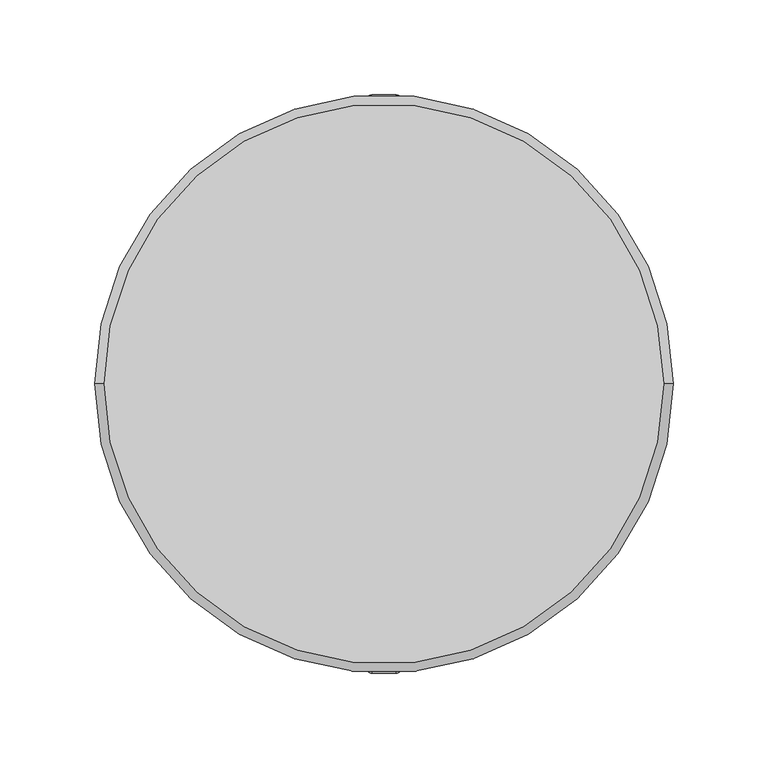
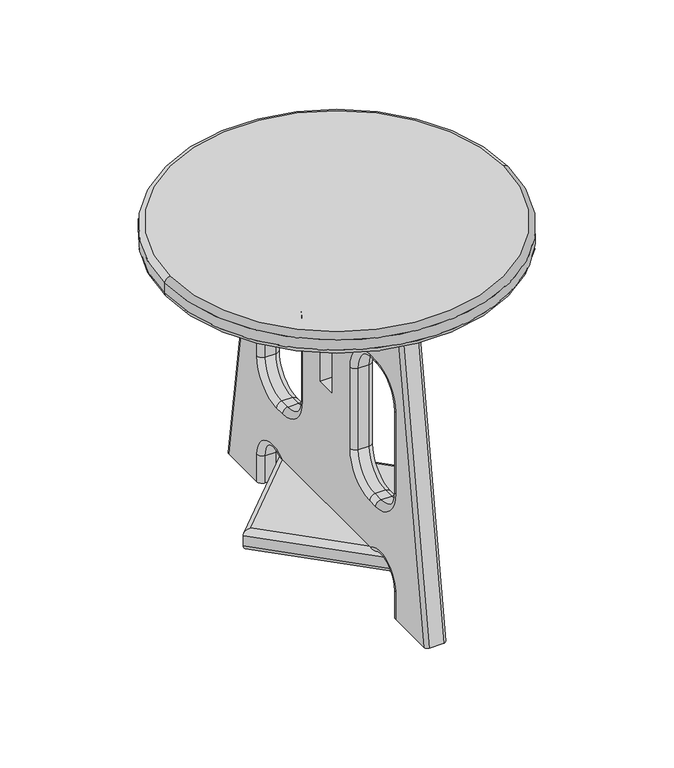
"""IFC4 building model written with IfcOpenShell, lengths in millimetres: furniture geometry, SSL-Childcraft_Outdoor-Stool : 2161352."""

from ifc_helpers import new_model, si_unit, point, frame, origin, origin_with_axes, place, context, project, spatial, polyline, circle_curve, ellipse_curve, trimmed, source, transform, mapped, element, save
from ifc_brep_helpers import plane_surface, cylinder_surface, revolved_surface, extruded_surface, spline_surface, advanced_brep


def furniture_d0157fcb(model_context):
    return source(origin(), model_context, "Body", "AdvancedBrep", [
        advanced_brep(
        [(6.35, 109.5375, 285.75), (9.525, 106.3625, 285.75), (9.525, 149.2274937, 0.0), (6.3524937, 152.4, 0.0), (-6.35, 109.5375, 285.75), (-6.35, 152.4, 0.0), (-9.525, 106.3625, 285.75), (-9.525, 149.225, 0.0), (4.7625, -41.2877, 117.475), (4.7625, -66.675, 92.0877), (9.525, -66.675, 87.3252), (9.525, -36.5252, 117.475), (-4.7625, -41.2877, 117.475), (-4.7625, -66.675, 92.0877), (-9.525, -36.5252, 117.475), (-9.525, -66.675, 87.3252), (9.525, -36.5252, 193.675), (4.7625, -41.2877, 193.675), (-4.7625, -41.2877, 193.675), (-9.525, -36.5252, 193.675), (9.525, -66.675, 223.8248), (4.7625, -66.675, 219.0623), (-4.7625, -66.675, 219.0623), (-9.525, -66.675, 223.8248), (9.525, -76.1873, 223.8248), (4.7625, -76.1873, 219.0623), (-4.7625, -76.1873, 219.0623), (-9.525, -76.1873, 223.8248), (9.525, -106.3498, 193.6623), (4.7625, -101.5873, 193.6623), (-4.7625, -101.5873, 193.6623), (-9.525, -106.3498, 193.6623), (9.525, -106.3498, 117.475), (4.7625, -101.5873, 117.475), (-4.7625, -101.5873, 117.475), (-9.525, -106.3498, 117.475), (9.525, -76.2, 87.3252), (4.7625, -76.2, 92.0877), (-4.7625, -76.2, 92.0877), (-9.525, -76.2, 87.3252), (4.7625, 101.5873, 117.475), (4.7625, 76.2, 92.0877), (9.525, 76.2, 87.3252), (9.525, 106.3498, 117.475), (-4.7625, 101.5873, 117.475), (-4.7625, 76.2, 92.0877), (-9.525, 106.3498, 117.475), (-9.525, 76.2, 87.3252), (9.525, 106.3498, 193.6623), (4.7625, 101.5873, 193.6623), (-4.7625, 101.5873, 193.6623), (-9.525, 106.3498, 193.6623), (9.525, 76.1873, 223.8248), (4.7625, 76.1873, 219.0623), (-4.7625, 76.1873, 219.0623), (-9.525, 76.1873, 223.8248), (9.525, 66.675, 223.8248), (4.7625, 66.675, 219.0623), (-4.7625, 66.675, 219.0623), (-9.525, 66.675, 223.8248), (9.525, 36.5252, 193.675), (4.7625, 41.2877, 193.675), (-4.7625, 41.2877, 193.675), (-9.525, 36.5252, 193.675), (9.525, 36.5252, 117.475), (4.7625, 41.2877, 117.475), (-4.7625, 41.2877, 117.475), (-9.525, 36.5252, 117.475), (9.525, 66.675, 87.3252), (4.7625, 66.675, 92.0877), (-4.7625, 66.675, 92.0877), (-9.525, 66.675, 87.3252), (4.7625, 101.5873, 0.0), (9.525, 106.3498, 0.0), (9.525, 106.3498, 25.4), (4.7625, 101.5873, 25.4), (-4.7625, 101.5873, 0.0), (-4.7625, 101.5873, 25.4), (-9.525, 106.3498, 0.0), (-9.525, 106.3498, 25.4), (-9.525, 68.27012, 44.43984), (-4.7625, 71.12762, 40.62984), (4.7625, 71.12762, 40.62984), (9.525, 68.27012, 44.43984), (9.525, -106.3498, 0.0), (4.7625, -101.5873, 0.0), (4.7625, -101.5873, 25.4), (9.525, -106.3498, 25.4), (-4.7625, -101.5873, 0.0), (-4.7625, -101.5873, 25.4), (-9.525, -106.3498, 0.0), (-9.525, -106.3498, 25.4), (9.525, -68.27012, 44.43984), (4.7625, -71.12762, 40.62984), (-4.7625, -71.12762, 40.62984), (-9.525, -68.27012, 44.43984), (9.525, 101.6, 285.75), (9.525, 82.55, 266.7), (9.525, 9.525, 266.7), (9.525, 9.525, 152.4), (9.525, -9.525, 152.4), (9.525, -9.525, 266.7), (9.525, -82.55, 266.7), (9.525, -101.6, 285.75), (9.525, -106.3625, 285.75), (9.525, -149.225, 0.0), (-9.525, -149.2274937, 0.0), (-9.525, -106.3625, 285.75), (-9.525, -101.6, 285.75), (-9.525, -82.55, 266.7), (-9.525, -9.525, 266.7), (-9.525, -9.525, 152.4), (-9.525, 9.525, 152.4), (-9.525, 9.525, 266.7), (-9.525, 82.55, 266.7), (-9.525, 101.6, 285.75), (-6.35, -109.5375, 285.75), (6.35, -109.5375, 285.75), (6.35, -152.4, 0.0), (-6.3524937, -152.4, 0.0)],
        [
            (0, 1, circle_curve(frame((6.35, 106.3625, 285.75), z_axis=(0.0, 0.0, -1.0), x_axis=(1.0, 0.0, 0.0)), 3.175)),
            (1, 2),
            (2, 3, circle_curve(frame((6.3524937, 149.2274937, 0.0), z_axis=(0.0, 0.0, 1.0), x_axis=(1.0, 0.0, 0.0)), 3.1725063)),
            (3, 0),
            (4, 0),
            (3, 5),
            (5, 4),
            (6, 4, circle_curve(frame((-6.35, 106.3625, 285.75), z_axis=(0.0, 0.0, -1.0), x_axis=(1.0, 0.0, 0.0)), 3.175)),
            (5, 7, circle_curve(frame((-6.35, 149.225, 0.0), z_axis=(0.0, 0.0, 1.0), x_axis=(1.0, 0.0, 0.0)), 3.175)),
            (7, 6),
            (8, 9, circle_curve(frame((4.7625, -66.675, 117.475), z_axis=(-1.0, 0.0, 0.0), x_axis=(0.0, 0.0, -1.0)), 25.3873)),
            (9, 10, circle_curve(frame((4.7625, -66.675, 87.3252), z_axis=(0.0, 1.0, 0.0), x_axis=(0.0, 0.0, 1.0)), 4.7625)),
            (10, 11, circle_curve(frame((9.525, -66.675, 117.475), z_axis=(1.0, 0.0, 0.0), x_axis=(0.0, 0.0, -1.0)), 30.1498)),
            (11, 8, circle_curve(frame((4.7625, -36.5252, 117.475), z_axis=(0.0, 0.0, -1.0), x_axis=(0.0, -1.0, 0.0)), 4.7625)),
            (8, 12),
            (12, 13, circle_curve(frame((-4.7625, -66.675, 117.475), z_axis=(-1.0, 0.0, 0.0), x_axis=(0.0, 0.0, -1.0)), 25.3873)),
            (13, 9),
            (12, 14, circle_curve(frame((-4.7625, -36.5252, 117.475), z_axis=(0.0, 0.0, -1.0), x_axis=(0.0, -1.0, 0.0)), 4.7625)),
            (14, 15, circle_curve(frame((-9.525, -66.675, 117.475), z_axis=(-1.0, 0.0, 0.0), x_axis=(0.0, 0.0, -1.0)), 30.1498)),
            (15, 13, circle_curve(frame((-4.7625, -66.675, 87.3252), z_axis=(0.0, 1.0, 0.0), x_axis=(0.0, 0.0, 1.0)), 4.7625)),
            (11, 16),
            (16, 17, circle_curve(frame((4.7625, -36.5252, 193.675), z_axis=(0.0, 0.0, -1.0), x_axis=(0.0, -1.0, 0.0)), 4.7625)),
            (17, 8),
            (17, 18),
            (18, 12),
            (18, 19, circle_curve(frame((-4.7625, -36.5252, 193.675), z_axis=(0.0, 0.0, -1.0), x_axis=(0.0, -1.0, 0.0)), 4.7625)),
            (19, 14),
            (16, 20, circle_curve(frame((9.525, -66.675, 193.675), z_axis=(1.0, 0.0, 0.0), x_axis=(0.0, 1.0, 0.0)), 30.1498)),
            (20, 21, circle_curve(frame((4.7625, -66.675, 223.8248), z_axis=(0.0, 1.0, 0.0), x_axis=(0.0, 0.0, -1.0)), 4.7625)),
            (21, 17, circle_curve(frame((4.7625, -66.675, 193.675), z_axis=(-1.0, 0.0, 0.0), x_axis=(0.0, 1.0, 0.0)), 25.3873)),
            (21, 22),
            (22, 18, circle_curve(frame((-4.7625, -66.675, 193.675), z_axis=(-1.0, 0.0, 0.0), x_axis=(0.0, 1.0, 0.0)), 25.3873)),
            (22, 23, circle_curve(frame((-4.7625, -66.675, 223.8248), z_axis=(0.0, 1.0, 0.0), x_axis=(0.0, 0.0, -1.0)), 4.7625)),
            (23, 19, circle_curve(frame((-9.525, -66.675, 193.675), z_axis=(-1.0, 0.0, 0.0), x_axis=(0.0, 1.0, 0.0)), 30.1498)),
            (20, 24),
            (24, 25, circle_curve(frame((4.7625, -76.1873, 223.8248), z_axis=(0.0, 1.0, 0.0), x_axis=(0.0, 0.0, -1.0)), 4.7625)),
            (25, 21),
            (25, 26),
            (26, 22),
            (26, 27, circle_curve(frame((-4.7625, -76.1873, 223.8248), z_axis=(0.0, 1.0, 0.0), x_axis=(0.0, 0.0, -1.0)), 4.7625)),
            (27, 23),
            (24, 28, circle_curve(frame((9.525, -76.1873, 193.6623), z_axis=(1.0, 0.0, 0.0), x_axis=(0.0, 0.0, 1.0)), 30.1625)),
            (28, 29, circle_curve(frame((4.7625, -106.3498, 193.6623), z_axis=(0.0, 0.0, 1.0), x_axis=(0.0, 1.0, 0.0)), 4.7625)),
            (29, 25, circle_curve(frame((4.7625, -76.1873, 193.6623), z_axis=(-1.0, 0.0, 0.0), x_axis=(0.0, 0.0, 1.0)), 25.4)),
            (29, 30),
            (30, 26, circle_curve(frame((-4.7625, -76.1873, 193.6623), z_axis=(-1.0, 0.0, 0.0), x_axis=(0.0, 0.0, 1.0)), 25.4)),
            (30, 31, circle_curve(frame((-4.7625, -106.3498, 193.6623), z_axis=(0.0, 0.0, 1.0), x_axis=(0.0, 1.0, 0.0)), 4.7625)),
            (31, 27, circle_curve(frame((-9.525, -76.1873, 193.6623), z_axis=(-1.0, 0.0, 0.0), x_axis=(0.0, 0.0, 1.0)), 30.1625)),
            (28, 32),
            (32, 33, circle_curve(frame((4.7625, -106.3498, 117.475), z_axis=(0.0, 0.0, 1.0), x_axis=(0.0, 1.0, 0.0)), 4.7625)),
            (33, 29),
            (33, 34),
            (34, 30),
            (34, 35, circle_curve(frame((-4.7625, -106.3498, 117.475), z_axis=(0.0, 0.0, 1.0), x_axis=(0.0, 1.0, 0.0)), 4.7625)),
            (35, 31),
            (32, 36, circle_curve(frame((9.525, -76.2, 117.475), z_axis=(1.0, 0.0, 0.0), x_axis=(0.0, -1.0, 0.0)), 30.1498)),
            (36, 37, circle_curve(frame((4.7625, -76.2, 87.3252), z_axis=(0.0, -1.0, 0.0), x_axis=(0.0, 0.0, 1.0)), 4.7625)),
            (37, 33, circle_curve(frame((4.7625, -76.2, 117.475), z_axis=(-1.0, 0.0, 0.0), x_axis=(0.0, -1.0, 0.0)), 25.3873)),
            (37, 38),
            (38, 34, circle_curve(frame((-4.7625, -76.2, 117.475), z_axis=(-1.0, 0.0, 0.0), x_axis=(0.0, -1.0, 0.0)), 25.3873)),
            (38, 39, circle_curve(frame((-4.7625, -76.2, 87.3252), z_axis=(0.0, -1.0, 0.0), x_axis=(0.0, 0.0, 1.0)), 4.7625)),
            (39, 35, circle_curve(frame((-9.525, -76.2, 117.475), z_axis=(-1.0, 0.0, 0.0), x_axis=(0.0, -1.0, 0.0)), 30.1498)),
            (9, 37),
            (36, 10),
            (13, 38),
            (15, 39),
            (40, 41, circle_curve(frame((4.7625, 76.2, 117.475), z_axis=(-1.0, 0.0, 0.0), x_axis=(0.0, 0.0, -1.0)), 25.3873)),
            (41, 42, circle_curve(frame((4.7625, 76.2, 87.3252), z_axis=(0.0, 1.0, 0.0), x_axis=(0.0, 0.0, 1.0)), 4.7625)),
            (42, 43, circle_curve(frame((9.525, 76.2, 117.475), z_axis=(1.0, 0.0, 0.0), x_axis=(0.0, 0.0, -1.0)), 30.1498)),
            (43, 40, circle_curve(frame((4.7625, 106.3498, 117.475), z_axis=(0.0, 0.0, -1.0), x_axis=(0.0, -1.0, 0.0)), 4.7625)),
            (40, 44),
            (44, 45, circle_curve(frame((-4.7625, 76.2, 117.475), z_axis=(-1.0, 0.0, 0.0), x_axis=(0.0, 0.0, -1.0)), 25.3873)),
            (45, 41),
            (44, 46, circle_curve(frame((-4.7625, 106.3498, 117.475), z_axis=(0.0, 0.0, -1.0), x_axis=(0.0, -1.0, 0.0)), 4.7625)),
            (46, 47, circle_curve(frame((-9.525, 76.2, 117.475), z_axis=(-1.0, 0.0, 0.0), x_axis=(0.0, 0.0, -1.0)), 30.1498)),
            (47, 45, circle_curve(frame((-4.7625, 76.2, 87.3252), z_axis=(0.0, 1.0, 0.0), x_axis=(0.0, 0.0, 1.0)), 4.7625)),
            (43, 48),
            (48, 49, circle_curve(frame((4.7625, 106.3498, 193.6623), z_axis=(0.0, 0.0, -1.0), x_axis=(0.0, -1.0, 0.0)), 4.7625)),
            (49, 40),
            (49, 50),
            (50, 44),
            (50, 51, circle_curve(frame((-4.7625, 106.3498, 193.6623), z_axis=(0.0, 0.0, -1.0), x_axis=(0.0, -1.0, 0.0)), 4.7625)),
            (51, 46),
            (48, 52, circle_curve(frame((9.525, 76.1873, 193.6623), z_axis=(1.0, 0.0, 0.0), x_axis=(0.0, 1.0, 0.0)), 30.1625)),
            (52, 53, circle_curve(frame((4.7625, 76.1873, 223.8248), z_axis=(0.0, 1.0, 0.0), x_axis=(0.0, 0.0, -1.0)), 4.7625)),
            (53, 49, circle_curve(frame((4.7625, 76.1873, 193.6623), z_axis=(-1.0, 0.0, 0.0), x_axis=(0.0, 1.0, 0.0)), 25.4)),
            (53, 54),
            (54, 50, circle_curve(frame((-4.7625, 76.1873, 193.6623), z_axis=(-1.0, 0.0, 0.0), x_axis=(0.0, 1.0, 0.0)), 25.4)),
            (54, 55, circle_curve(frame((-4.7625, 76.1873, 223.8248), z_axis=(0.0, 1.0, 0.0), x_axis=(0.0, 0.0, -1.0)), 4.7625)),
            (55, 51, circle_curve(frame((-9.525, 76.1873, 193.6623), z_axis=(-1.0, 0.0, 0.0), x_axis=(0.0, 1.0, 0.0)), 30.1625)),
            (52, 56),
            (56, 57, circle_curve(frame((4.7625, 66.675, 223.8248), z_axis=(0.0, 1.0, 0.0), x_axis=(0.0, 0.0, -1.0)), 4.7625)),
            (57, 53),
            (57, 58),
            (58, 54),
            (58, 59, circle_curve(frame((-4.7625, 66.675, 223.8248), z_axis=(0.0, 1.0, 0.0), x_axis=(0.0, 0.0, -1.0)), 4.7625)),
            (59, 55),
            (56, 60, circle_curve(frame((9.525, 66.675, 193.675), z_axis=(1.0, 0.0, 0.0), x_axis=(0.0, 0.0, 1.0)), 30.1498)),
            (60, 61, circle_curve(frame((4.7625, 36.5252, 193.675), z_axis=(0.0, 0.0, 1.0), x_axis=(0.0, 1.0, 0.0)), 4.7625)),
            (61, 57, circle_curve(frame((4.7625, 66.675, 193.675), z_axis=(-1.0, 0.0, 0.0), x_axis=(0.0, 0.0, 1.0)), 25.3873)),
            (61, 62),
            (62, 58, circle_curve(frame((-4.7625, 66.675, 193.675), z_axis=(-1.0, 0.0, 0.0), x_axis=(0.0, 0.0, 1.0)), 25.3873)),
            (62, 63, circle_curve(frame((-4.7625, 36.5252, 193.675), z_axis=(0.0, 0.0, 1.0), x_axis=(0.0, 1.0, 0.0)), 4.7625)),
            (63, 59, circle_curve(frame((-9.525, 66.675, 193.675), z_axis=(-1.0, 0.0, 0.0), x_axis=(0.0, 0.0, 1.0)), 30.1498)),
            (60, 64),
            (64, 65, circle_curve(frame((4.7625, 36.5252, 117.475), z_axis=(0.0, 0.0, 1.0), x_axis=(0.0, 1.0, 0.0)), 4.7625)),
            (65, 61),
            (65, 66),
            (66, 62),
            (66, 67, circle_curve(frame((-4.7625, 36.5252, 117.475), z_axis=(0.0, 0.0, 1.0), x_axis=(0.0, 1.0, 0.0)), 4.7625)),
            (67, 63),
            (64, 68, circle_curve(frame((9.525, 66.675, 117.475), z_axis=(1.0, 0.0, 0.0), x_axis=(0.0, -1.0, 0.0)), 30.1498)),
            (68, 69, circle_curve(frame((4.7625, 66.675, 87.3252), z_axis=(0.0, -1.0, 0.0), x_axis=(0.0, 0.0, 1.0)), 4.7625)),
            (69, 65, circle_curve(frame((4.7625, 66.675, 117.475), z_axis=(-1.0, 0.0, 0.0), x_axis=(0.0, -1.0, 0.0)), 25.3873)),
            (69, 70),
            (70, 66, circle_curve(frame((-4.7625, 66.675, 117.475), z_axis=(-1.0, 0.0, 0.0), x_axis=(0.0, -1.0, 0.0)), 25.3873)),
            (70, 71, circle_curve(frame((-4.7625, 66.675, 87.3252), z_axis=(0.0, -1.0, 0.0), x_axis=(0.0, 0.0, 1.0)), 4.7625)),
            (71, 67, circle_curve(frame((-9.525, 66.675, 117.475), z_axis=(-1.0, 0.0, 0.0), x_axis=(0.0, -1.0, 0.0)), 30.1498)),
            (41, 69),
            (68, 42),
            (45, 70),
            (47, 71),
            (72, 73, circle_curve(frame((4.7625, 106.3498, 0.0), z_axis=(0.0, 0.0, 1.0), x_axis=(0.0, -1.0, 0.0)), 4.7625)),
            (73, 74),
            (74, 75, circle_curve(frame((4.7625, 106.3498, 25.4), z_axis=(0.0, 0.0, -1.0), x_axis=(0.0, -1.0, 0.0)), 4.7625)),
            (75, 72),
            (76, 72),
            (75, 77),
            (77, 76),
            (78, 76, circle_curve(frame((-4.7625, 106.3498, 0.0), z_axis=(0.0, 0.0, 1.0), x_axis=(0.0, -1.0, 0.0)), 4.7625)),
            (77, 79, circle_curve(frame((-4.7625, 106.3498, 25.4), z_axis=(0.0, 0.0, -1.0), x_axis=(0.0, -1.0, 0.0)), 4.7625)),
            (79, 78),
            (80, 81, circle_curve(frame((-4.7625, 68.27012, 44.43984), z_axis=(0.0, -0.8000000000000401, -0.5999999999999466), x_axis=(0.0, 0.5999999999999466, -0.8000000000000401)), 4.7625)),
            (81, 82),
            (82, 83, circle_curve(frame((4.7625, 68.27012, 44.43984), z_axis=(0.0, -0.8000000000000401, -0.5999999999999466), x_axis=(0.0, 0.5999999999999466, -0.8000000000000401)), 4.7625)),
            (83, 80),
            (74, 83, circle_curve(frame((9.525, 82.55, 25.4), z_axis=(1.0, 0.0, 0.0), x_axis=(0.0, 1.0, 0.0)), 23.7998)),
            (82, 75, circle_curve(frame((4.7625, 82.55, 25.4), z_axis=(-1.0, 0.0, 0.0), x_axis=(0.0, 1.0, 0.0)), 19.0373)),
            (81, 77, circle_curve(frame((-4.7625, 82.55, 25.4), z_axis=(-1.0, 0.0, 0.0), x_axis=(0.0, 1.0, 0.0)), 19.0373)),
            (80, 79, circle_curve(frame((-9.525, 82.55, 25.4), z_axis=(-1.0, 0.0, 0.0), x_axis=(0.0, 1.0, 0.0)), 23.7998)),
            (84, 85, circle_curve(frame((4.7625, -106.3498, 0.0), z_axis=(0.0, 0.0, 1.0), x_axis=(0.0, -1.0, 0.0)), 4.7625)),
            (85, 86),
            (86, 87, circle_curve(frame((4.7625, -106.3498, 25.4), z_axis=(0.0, 0.0, -1.0), x_axis=(0.0, -1.0, 0.0)), 4.7625)),
            (87, 84),
            (85, 88),
            (88, 89),
            (89, 86),
            (88, 90, circle_curve(frame((-4.7625, -106.3498, 0.0), z_axis=(0.0, 0.0, 1.0), x_axis=(0.0, -1.0, 0.0)), 4.7625)),
            (90, 91),
            (91, 89, circle_curve(frame((-4.7625, -106.3498, 25.4), z_axis=(0.0, 0.0, -1.0), x_axis=(0.0, -1.0, 0.0)), 4.7625)),
            (92, 93, circle_curve(frame((4.7625, -68.27012, 44.43984), z_axis=(0.0, 0.8000000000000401, -0.5999999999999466), x_axis=(0.0, 0.5999999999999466, 0.8000000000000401)), 4.7625)),
            (93, 94),
            (94, 95, circle_curve(frame((-4.7625, -68.27012, 44.43984), z_axis=(0.0, 0.8000000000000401, -0.5999999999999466), x_axis=(0.0, 0.5999999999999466, 0.8000000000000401)), 4.7625)),
            (95, 92),
            (86, 93, circle_curve(frame((4.7625, -82.55, 25.4), z_axis=(-1.0, 0.0, 0.0), x_axis=(0.0, -1.0, 0.0)), 19.0373)),
            (92, 87, circle_curve(frame((9.525, -82.55, 25.4), z_axis=(1.0, 0.0, 0.0), x_axis=(0.0, -1.0, 0.0)), 23.7998)),
            (89, 94, circle_curve(frame((-4.7625, -82.55, 25.4), z_axis=(-1.0, 0.0, 0.0), x_axis=(0.0, -1.0, 0.0)), 19.0373)),
            (91, 95, circle_curve(frame((-9.525, -82.55, 25.4), z_axis=(-1.0, 0.0, 0.0), x_axis=(0.0, -1.0, 0.0)), 23.7998)),
            (96, 97, circle_curve(frame((9.525, 82.55, 285.75), z_axis=(-1.0, 0.0, 0.0), x_axis=(0.0, 1.0, 0.0)), 19.05)),
            (97, 98),
            (98, 99),
            (99, 100),
            (100, 101),
            (101, 102),
            (102, 103, circle_curve(frame((9.525, -82.55, 285.75), z_axis=(-1.0, 0.0, 0.0), x_axis=(0.0, 1.0, 0.0)), 19.05)),
            (103, 104),
            (104, 105),
            (105, 84),
            (92, 83),
            (73, 2),
            (1, 96),
            (80, 95),
            (90, 106),
            (106, 107),
            (107, 108),
            (108, 109, circle_curve(frame((-9.525, -82.55, 285.75), z_axis=(1.0, 0.0, 0.0), x_axis=(0.0, 1.0, 0.0)), 19.05)),
            (109, 110),
            (110, 111),
            (111, 112),
            (112, 113),
            (113, 114),
            (114, 115, circle_curve(frame((-9.525, 82.55, 285.75), z_axis=(1.0, 0.0, 0.0), x_axis=(0.0, 1.0, 0.0)), 19.05)),
            (115, 6),
            (7, 78),
            (115, 96),
            (114, 97),
            (113, 98),
            (112, 99),
            (111, 100),
            (110, 101),
            (109, 102),
            (108, 103),
            (107, 116, circle_curve(frame((-6.35, -106.3625, 285.75), z_axis=(0.0, 0.0, 1.0), x_axis=(-1.0, 0.0, 0.0)), 3.175)),
            (116, 117),
            (117, 104, circle_curve(frame((6.35, -106.3625, 285.75), z_axis=(0.0, 0.0, 1.0), x_axis=(-1.0, 0.0, 0.0)), 3.175)),
            (105, 118, circle_curve(frame((6.35, -149.225, 0.0), z_axis=(0.0, 0.0, -1.0), x_axis=(-1.0, 0.0, 0.0)), 3.175)),
            (118, 119),
            (119, 106, circle_curve(frame((-6.3524937, -149.2274937, 0.0), z_axis=(0.0, 0.0, -1.0), x_axis=(-1.0, 0.0, 0.0)), 3.1725063)),
            (119, 116),
            (118, 117),
        ],
        [
            spline_surface(2, 1, [[(9.525, 149.2274937, 0.0), (9.525, 106.3625, 285.75)], [(9.525000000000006, 152.4, 0.0), (9.525000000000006, 109.5375, 285.75)], [(6.3524937, 152.4, 0.0), (6.35, 109.5375, 285.75)]], [3, 3], [2, 2], [0.0, 1.0], [0.0, 1.0], weights=[[1.0, 1.0], [0.7071067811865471, 0.7071067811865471], [1.0, 1.0]]),
            plane_surface(frame((0.0012468, 152.4, 0.0), z_axis=(0.0, 0.988936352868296, 0.14834045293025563), x_axis=(-1.0, 0.0, 0.0))),
            extruded_surface(trimmed(circle_curve(frame((-6.35, 149.225, 0.0), z_axis=(0.0, 0.0, 1.0), x_axis=(1.0, 0.0, 0.0)), 3.175), [point((-6.35, 152.4, 0.0))], [point((-9.525, 149.225, 0.0))], True, "CARTESIAN"), (0.0, -42.8625, 285.75), 288.94680549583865),
            revolved_surface(trimmed(ellipse_curve(frame((4.7625, -66.675, 87.3252), z_axis=(0.0, -1.0, 0.0), x_axis=(0.0, 0.0, 1.0)), 4.7625, 4.7625), [point((9.525, -66.675, 87.3252))], [point((4.7625, -66.675, 92.0877))], True, "CARTESIAN"), (0.0, -66.675, 117.475), (1.0, 0.0, 0.0)),
            revolved_surface(polyline([(4.7625, -66.675, 92.0877), (-4.7625, -66.675, 92.0877)]), (0.0, -66.675, 117.475), (1.0, 0.0, 0.0)),
            revolved_surface(trimmed(ellipse_curve(frame((-4.7625, -66.675, 87.3252), z_axis=(0.0, -1.0, 0.0), x_axis=(0.0, 0.0, 1.0)), 4.7625, 4.7625), [point((-4.7625, -66.675, 92.0877))], [point((-9.525, -66.675, 87.3252))], True, "CARTESIAN"), (0.0, -66.675, 117.475), (1.0, 0.0, 0.0)),
            cylinder_surface(frame((4.7625, -36.5252, 117.475), z_axis=(0.0, 0.0, -1.0), x_axis=(0.0, -1.0, 0.0)), 4.7625),
            plane_surface(frame((4.7625, -41.2877, 117.475), z_axis=(0.0, -1.0, 0.0), x_axis=(0.0, 0.0, 1.0))),
            cylinder_surface(frame((-4.7625, -36.5252, 117.475), z_axis=(0.0, 0.0, -1.0), x_axis=(0.0, -1.0, 0.0)), 4.7625),
            revolved_surface(trimmed(ellipse_curve(frame((4.7625, -36.5252, 193.675), z_axis=(0.0, 0.0, -1.0), x_axis=(0.0, -1.0, 0.0)), 4.7625, 4.7625), [point((9.525, -36.5252, 193.675))], [point((4.7625, -41.2877, 193.675))], True, "CARTESIAN"), (0.0, -66.675, 193.675), (1.0, 0.0, 0.0)),
            revolved_surface(polyline([(4.7625, -41.2877, 193.675), (-4.7625, -41.2877, 193.675)]), (0.0, -66.675, 193.675), (1.0, 0.0, 0.0)),
            revolved_surface(trimmed(ellipse_curve(frame((-4.7625, -36.5252, 193.675), z_axis=(0.0, 0.0, -1.0), x_axis=(0.0, -1.0, 0.0)), 4.7625, 4.7625), [point((-4.7625, -41.2877, 193.675))], [point((-9.525, -36.5252, 193.675))], True, "CARTESIAN"), (0.0, -66.675, 193.675), (1.0, 0.0, 0.0)),
            cylinder_surface(frame((4.7625, -66.675, 223.8248), z_axis=(0.0, 1.0, 0.0), x_axis=(0.0, 0.0, -1.0)), 4.7625),
            plane_surface(frame((4.7625, -66.675, 219.0623), z_axis=(0.0, 0.0, -1.0), x_axis=(0.0, -1.0, 0.0))),
            cylinder_surface(frame((-4.7625, -66.675, 223.8248), z_axis=(0.0, 1.0, 0.0), x_axis=(0.0, 0.0, -1.0)), 4.7625),
            revolved_surface(trimmed(ellipse_curve(frame((4.7625, -76.1873, 223.8248), z_axis=(0.0, 1.0, 0.0), x_axis=(0.0, 0.0, -1.0)), 4.7625, 4.7625), [point((9.525, -76.1873, 223.8248))], [point((4.7625, -76.1873, 219.0623))], True, "CARTESIAN"), (0.0, -76.1873, 193.6623), (1.0, 0.0, 0.0)),
            revolved_surface(polyline([(4.7625, -76.1873, 219.0623), (-4.7625, -76.1873, 219.0623)]), (0.0, -76.1873, 193.6623), (1.0, 0.0, 0.0)),
            revolved_surface(trimmed(ellipse_curve(frame((-4.7625, -76.1873, 223.8248), z_axis=(0.0, 1.0, 0.0), x_axis=(0.0, 0.0, -1.0)), 4.7625, 4.7625), [point((-4.7625, -76.1873, 219.0623))], [point((-9.525, -76.1873, 223.8248))], True, "CARTESIAN"), (0.0, -76.1873, 193.6623), (1.0, 0.0, 0.0)),
            cylinder_surface(frame((4.7625, -106.3498, 193.6623), z_axis=(0.0, 0.0, 1.0), x_axis=(0.0, 1.0, 0.0)), 4.7625),
            plane_surface(frame((4.7625, -101.5873, 193.6623), z_axis=(0.0, 1.0, 0.0), x_axis=(0.0, 0.0, -1.0))),
            cylinder_surface(frame((-4.7625, -106.3498, 193.6623), z_axis=(0.0, 0.0, 1.0), x_axis=(0.0, 1.0, 0.0)), 4.7625),
            revolved_surface(trimmed(ellipse_curve(frame((4.7625, -106.3498, 117.475), z_axis=(0.0, 0.0, 1.0), x_axis=(0.0, 1.0, 0.0)), 4.7625, 4.7625), [point((9.525, -106.3498, 117.475))], [point((4.7625, -101.5873, 117.475))], True, "CARTESIAN"), (0.0, -76.2, 117.475), (1.0, 0.0, 0.0)),
            revolved_surface(polyline([(4.7625, -101.5873, 117.475), (-4.7625, -101.5873, 117.475)]), (0.0, -76.2, 117.475), (1.0, 0.0, 0.0)),
            revolved_surface(trimmed(ellipse_curve(frame((-4.7625, -106.3498, 117.475), z_axis=(0.0, 0.0, 1.0), x_axis=(0.0, 1.0, 0.0)), 4.7625, 4.7625), [point((-4.7625, -101.5873, 117.475))], [point((-9.525, -106.3498, 117.475))], True, "CARTESIAN"), (0.0, -76.2, 117.475), (1.0, 0.0, 0.0)),
            cylinder_surface(frame((4.7625, -76.2, 87.3252), z_axis=(0.0, -1.0, 0.0), x_axis=(0.0, 0.0, 1.0)), 4.7625),
            plane_surface(frame((4.7625, -76.2, 92.0877), z_axis=(0.0, 0.0, 1.0), x_axis=(0.0, 1.0, 0.0))),
            cylinder_surface(frame((-4.7625, -76.2, 87.3252), z_axis=(0.0, -1.0, 0.0), x_axis=(0.0, 0.0, 1.0)), 4.7625),
            revolved_surface(trimmed(ellipse_curve(frame((4.7625, 76.2, 87.3252), z_axis=(0.0, -1.0, 0.0), x_axis=(0.0, 0.0, 1.0)), 4.7625, 4.7625), [point((9.525, 76.2, 87.3252))], [point((4.7625, 76.2, 92.0877))], True, "CARTESIAN"), (0.0, 76.2, 117.475), (1.0, 0.0, 0.0)),
            revolved_surface(polyline([(4.7625, 76.2, 92.0877), (-4.7625, 76.2, 92.0877)]), (0.0, 76.2, 117.475), (1.0, 0.0, 0.0)),
            revolved_surface(trimmed(ellipse_curve(frame((-4.7625, 76.2, 87.3252), z_axis=(0.0, -1.0, 0.0), x_axis=(0.0, 0.0, 1.0)), 4.7625, 4.7625), [point((-4.7625, 76.2, 92.0877))], [point((-9.525, 76.2, 87.3252))], True, "CARTESIAN"), (0.0, 76.2, 117.475), (1.0, 0.0, 0.0)),
            cylinder_surface(frame((4.7625, 106.3498, 117.475), z_axis=(0.0, 0.0, -1.0), x_axis=(0.0, -1.0, 0.0)), 4.7625),
            plane_surface(frame((4.7625, 101.5873, 117.475), z_axis=(0.0, -1.0, 0.0), x_axis=(0.0, 0.0, 1.0))),
            cylinder_surface(frame((-4.7625, 106.3498, 117.475), z_axis=(0.0, 0.0, -1.0), x_axis=(0.0, -1.0, 0.0)), 4.7625),
            revolved_surface(trimmed(ellipse_curve(frame((4.7625, 106.3498, 193.6623), z_axis=(0.0, 0.0, -1.0), x_axis=(0.0, -1.0, 0.0)), 4.7625, 4.7625), [point((9.525, 106.3498, 193.6623))], [point((4.7625, 101.5873, 193.6623))], True, "CARTESIAN"), (0.0, 76.1873, 193.6623), (1.0, 0.0, 0.0)),
            revolved_surface(polyline([(4.7625, 101.5873, 193.6623), (-4.7625, 101.5873, 193.6623)]), (0.0, 76.1873, 193.6623), (1.0, 0.0, 0.0)),
            revolved_surface(trimmed(ellipse_curve(frame((-4.7625, 106.3498, 193.6623), z_axis=(0.0, 0.0, -1.0), x_axis=(0.0, -1.0, 0.0)), 4.7625, 4.7625), [point((-4.7625, 101.5873, 193.6623))], [point((-9.525, 106.3498, 193.6623))], True, "CARTESIAN"), (0.0, 76.1873, 193.6623), (1.0, 0.0, 0.0)),
            cylinder_surface(frame((4.7625, 76.1873, 223.8248), z_axis=(0.0, 1.0, 0.0), x_axis=(0.0, 0.0, -1.0)), 4.7625),
            plane_surface(frame((4.7625, 76.1873, 219.0623), z_axis=(0.0, 0.0, -1.0), x_axis=(0.0, -1.0, 0.0))),
            cylinder_surface(frame((-4.7625, 76.1873, 223.8248), z_axis=(0.0, 1.0, 0.0), x_axis=(0.0, 0.0, -1.0)), 4.7625),
            revolved_surface(trimmed(ellipse_curve(frame((4.7625, 66.675, 223.8248), z_axis=(0.0, 1.0, 0.0), x_axis=(0.0, 0.0, -1.0)), 4.7625, 4.7625), [point((9.525, 66.675, 223.8248))], [point((4.7625, 66.675, 219.0623))], True, "CARTESIAN"), (0.0, 66.675, 193.675), (1.0, 0.0, 0.0)),
            revolved_surface(polyline([(4.7625, 66.675, 219.06230000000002), (-4.7625, 66.675, 219.06230000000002)]), (0.0, 66.675, 193.675), (1.0, 0.0, 0.0)),
            revolved_surface(trimmed(ellipse_curve(frame((-4.7625, 66.675, 223.8248), z_axis=(0.0, 1.0, 0.0), x_axis=(0.0, 0.0, -1.0)), 4.7625, 4.7625), [point((-4.7625, 66.675, 219.0623))], [point((-9.525, 66.675, 223.8248))], True, "CARTESIAN"), (0.0, 66.675, 193.675), (1.0, 0.0, 0.0)),
            cylinder_surface(frame((4.7625, 36.5252, 193.675), z_axis=(0.0, 0.0, 1.0), x_axis=(0.0, 1.0, 0.0)), 4.7625),
            plane_surface(frame((4.7625, 41.2877, 193.675), z_axis=(0.0, 1.0, 0.0), x_axis=(0.0, 0.0, -1.0))),
            cylinder_surface(frame((-4.7625, 36.5252, 193.675), z_axis=(0.0, 0.0, 1.0), x_axis=(0.0, 1.0, 0.0)), 4.7625),
            revolved_surface(trimmed(ellipse_curve(frame((4.7625, 36.5252, 117.475), z_axis=(0.0, 0.0, 1.0), x_axis=(0.0, 1.0, 0.0)), 4.7625, 4.7625), [point((9.525, 36.5252, 117.475))], [point((4.7625, 41.2877, 117.475))], True, "CARTESIAN"), (0.0, 66.675, 117.475), (1.0, 0.0, 0.0)),
            revolved_surface(polyline([(4.7625, 41.2877, 117.475), (-4.7625, 41.2877, 117.475)]), (0.0, 66.675, 117.475), (1.0, 0.0, 0.0)),
            revolved_surface(trimmed(ellipse_curve(frame((-4.7625, 36.5252, 117.475), z_axis=(0.0, 0.0, 1.0), x_axis=(0.0, 1.0, 0.0)), 4.7625, 4.7625), [point((-4.7625, 41.2877, 117.475))], [point((-9.525, 36.5252, 117.475))], True, "CARTESIAN"), (0.0, 66.675, 117.475), (1.0, 0.0, 0.0)),
            cylinder_surface(frame((4.7625, 66.675, 87.3252), z_axis=(0.0, -1.0, 0.0), x_axis=(0.0, 0.0, 1.0)), 4.7625),
            plane_surface(frame((4.7625, 66.675, 92.0877), z_axis=(0.0, 0.0, 1.0), x_axis=(0.0, 1.0, 0.0))),
            cylinder_surface(frame((-4.7625, 66.675, 87.3252), z_axis=(0.0, -1.0, 0.0), x_axis=(0.0, 0.0, 1.0)), 4.7625),
            cylinder_surface(frame((4.7625, 106.3498, 0.0), z_axis=(0.0, 0.0, -1.0), x_axis=(0.0, -1.0, 0.0)), 4.7625),
            plane_surface(frame((4.7625, 101.5873, 0.0), z_axis=(0.0, -1.0, 0.0), x_axis=(0.0, 0.0, 1.0))),
            cylinder_surface(frame((-4.7625, 106.3498, 0.0), z_axis=(0.0, 0.0, -1.0), x_axis=(0.0, -1.0, 0.0)), 4.7625),
            plane_surface(frame((0.0, 68.2625, 44.45), z_axis=(0.0, -0.8000000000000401, -0.5999999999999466), x_axis=(1.0, 0.0, 0.0))),
            revolved_surface(trimmed(ellipse_curve(frame((4.7625, 106.3498, 25.4), z_axis=(0.0, 0.0, -1.0), x_axis=(0.0, -1.0, 0.0)), 4.7625, 4.7625), [point((9.525, 106.3498, 25.4))], [point((4.7625, 101.5873, 25.4))], True, "CARTESIAN"), (0.0, 82.55, 25.4), (1.0, 0.0, 0.0)),
            revolved_surface(polyline([(4.7625, 101.5873, 25.4), (-4.7625, 101.5873, 25.4)]), (0.0, 82.55, 25.4), (1.0, 0.0, 0.0)),
            revolved_surface(trimmed(ellipse_curve(frame((-4.7625, 106.3498, 25.4), z_axis=(0.0, 0.0, -1.0), x_axis=(0.0, -1.0, 0.0)), 4.7625, 4.7625), [point((-4.7625, 101.5873, 25.4))], [point((-9.525, 106.3498, 25.4))], True, "CARTESIAN"), (0.0, 82.55, 25.4), (1.0, 0.0, 0.0)),
            cylinder_surface(frame((4.7625, -106.3498, 0.0), z_axis=(0.0, 0.0, -1.0), x_axis=(0.0, -1.0, 0.0)), 4.7625),
            plane_surface(frame((-4.7625, -101.5873, 0.0), z_axis=(0.0, 1.0, 0.0), x_axis=(0.0, 0.0, 1.0))),
            cylinder_surface(frame((-4.7625, -106.3498, 0.0), z_axis=(0.0, 0.0, -1.0), x_axis=(0.0, -1.0, 0.0)), 4.7625),
            plane_surface(frame((0.0, -68.2625, 44.45), z_axis=(0.0, 0.8000000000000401, -0.5999999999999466), x_axis=(1.0, 0.0, 0.0))),
            revolved_surface(trimmed(ellipse_curve(frame((4.7625, -106.3498, 25.4), z_axis=(0.0, 0.0, -1.0), x_axis=(0.0, -1.0, 0.0)), 4.7625, 4.7625), [point((4.7625, -101.5873, 25.4))], [point((9.525, -106.3498, 25.4))], True, "CARTESIAN"), (0.0, -82.55, 25.4), (-1.0, 0.0, 0.0)),
            revolved_surface(polyline([(-4.7625, -101.5873, 25.4), (4.7625, -101.5873, 25.4)]), (0.0, -82.55, 25.4), (-1.0, 0.0, 0.0)),
            revolved_surface(trimmed(ellipse_curve(frame((-4.7625, -106.3498, 25.4), z_axis=(0.0, 0.0, -1.0), x_axis=(0.0, -1.0, 0.0)), 4.7625, 4.7625), [point((-9.525, -106.3498, 25.4))], [point((-4.7625, -101.5873, 25.4))], True, "CARTESIAN"), (0.0, -82.55, 25.4), (-1.0, 0.0, 0.0)),
            plane_surface(frame((9.525, 103.98125, 285.75), z_axis=(1.0, 0.0, 0.0), x_axis=(0.0, -0.14834045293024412, 0.9889363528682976))),
            plane_surface(frame((-9.525, 103.98125, 285.75), z_axis=(-1.0, 0.0, 0.0), x_axis=(0.0, 0.14834045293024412, -0.9889363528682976))),
            plane_surface(frame((9.525, 103.98125, 285.75), z_axis=(0.0, -1.3642420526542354e-12, 1.0), x_axis=(-1.0, 0.0, 0.0))),
            revolved_surface(polyline([(-9.525, 101.6, 285.75), (9.525, 101.6, 285.75)]), (-9.525, 82.55, 285.75), (-1.0, 0.0, 0.0)),
            plane_surface(frame((9.525, 82.55, 266.7), z_axis=(0.0, 0.0, 1.0), x_axis=(-1.0, 0.0, 0.0))),
            plane_surface(frame((9.525, 9.525, 266.7), z_axis=(0.0, -1.0, 0.0), x_axis=(-1.0, 0.0, 0.0))),
            plane_surface(frame((9.525, 9.525, 152.4), z_axis=(0.0, 0.0, 1.0), x_axis=(-1.0, 0.0, 0.0))),
            plane_surface(frame((9.525, -9.525, 152.4), z_axis=(0.0, 1.0, 0.0), x_axis=(-1.0, 0.0, 0.0))),
            plane_surface(frame((9.525, -9.525, 266.7), z_axis=(0.0, 0.0, 1.0), x_axis=(-1.0, 0.0, 0.0))),
            revolved_surface(polyline([(-9.525, -63.5, 285.75), (9.525, -63.5, 285.75)]), (-9.525, -82.55, 285.75), (-1.0, 0.0, 0.0)),
            plane_surface(frame((9.525, -101.6, 285.75), z_axis=(0.0, 0.0, 1.0), x_axis=(-1.0, 0.0, 0.0))),
            plane_surface(frame((9.525, -146.84375, 0.0), z_axis=(0.0, 0.0, -1.0), x_axis=(-1.0, 0.0, 0.0))),
            plane_surface(frame((9.525, -68.2625, 44.45), z_axis=(0.0, 0.0, -1.0), x_axis=(-1.0, 0.0, 0.0))),
            plane_surface(frame((9.525, 106.3625, 0.0), z_axis=(0.0, 0.0, -1.0), x_axis=(-1.0, 0.0, 0.0))),
            spline_surface(2, 1, [[(-9.525, -149.2274937, 0.0), (-9.525, -106.3625, 285.75)], [(-9.525000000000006, -152.4, 0.0), (-9.525000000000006, -109.5375, 285.75)], [(-6.3524937, -152.4, 0.0), (-6.35, -109.5375, 285.75)]], [3, 3], [2, 2], [0.0, 1.0], [0.0, 1.0], weights=[[1.0, 1.0], [0.7071067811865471, 0.7071067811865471], [1.0, 1.0]]),
            plane_surface(frame((-0.0012468, -152.4, 0.0), z_axis=(0.0, -0.9889363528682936, 0.14834045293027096), x_axis=(1.0, 0.0, 0.0))),
            extruded_surface(trimmed(circle_curve(frame((6.35, -149.225, 0.0), z_axis=(0.0, 0.0, 1.0), x_axis=(-1.0, 0.0, 0.0)), 3.175), [point((6.35, -152.4, 0.0))], [point((9.525, -149.225, 0.0))], True, "CARTESIAN"), (0.0, 42.8625, 285.75), 288.94680549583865),
        ],
        [
            (0, [[1, 2, 3, 4]]),
            (1, [[5, -4, 6, 7]]),
            (2, [[8, -7, 9, 10]]),
            (3, [[11, 12, 13, 14]]),
            (4, [[-11, 15, 16, 17]]),
            (5, [[-16, 18, 19, 20]]),
            (6, [[-14, 21, 22, 23]]),
            (7, [[-15, -23, 24, 25]]),
            (8, [[-18, -25, 26, 27]]),
            (9, [[-22, 28, 29, 30]]),
            (10, [[-24, -30, 31, 32]]),
            (11, [[-26, -32, 33, 34]]),
            (12, [[-29, 35, 36, 37]]),
            (13, [[-31, -37, 38, 39]]),
            (14, [[-33, -39, 40, 41]]),
            (15, [[-36, 42, 43, 44]]),
            (16, [[-38, -44, 45, 46]]),
            (17, [[-40, -46, 47, 48]]),
            (18, [[-43, 49, 50, 51]]),
            (19, [[-45, -51, 52, 53]]),
            (20, [[-47, -53, 54, 55]]),
            (21, [[-50, 56, 57, 58]]),
            (22, [[-52, -58, 59, 60]]),
            (23, [[-54, -60, 61, 62]]),
            (24, [[-12, 63, -57, 64]]),
            (25, [[-17, 65, -59, -63]]),
            (26, [[-20, 66, -61, -65]]),
            (27, [[67, 68, 69, 70]]),
            (28, [[-67, 71, 72, 73]]),
            (29, [[-72, 74, 75, 76]]),
            (30, [[-70, 77, 78, 79]]),
            (31, [[-71, -79, 80, 81]]),
            (32, [[-74, -81, 82, 83]]),
            (33, [[-78, 84, 85, 86]]),
            (34, [[-80, -86, 87, 88]]),
            (35, [[-82, -88, 89, 90]]),
            (36, [[-85, 91, 92, 93]]),
            (37, [[-87, -93, 94, 95]]),
            (38, [[-89, -95, 96, 97]]),
            (39, [[-92, 98, 99, 100]]),
            (40, [[-94, -100, 101, 102]]),
            (41, [[-96, -102, 103, 104]]),
            (42, [[-99, 105, 106, 107]]),
            (43, [[-101, -107, 108, 109]]),
            (44, [[-103, -109, 110, 111]]),
            (45, [[-106, 112, 113, 114]]),
            (46, [[-108, -114, 115, 116]]),
            (47, [[-110, -116, 117, 118]]),
            (48, [[-68, 119, -113, 120]]),
            (49, [[-73, 121, -115, -119]]),
            (50, [[-76, 122, -117, -121]]),
            (51, [[123, 124, 125, 126]]),
            (52, [[127, -126, 128, 129]]),
            (53, [[130, -129, 131, 132]]),
            (54, [[133, 134, 135, 136]]),
            (55, [[-125, 137, -135, 138]]),
            (56, [[-128, -138, -134, 139]]),
            (57, [[-131, -139, -133, 140]]),
            (58, [[141, 142, 143, 144]]),
            (59, [[145, 146, 147, -142]]),
            (60, [[148, 149, 150, -146]]),
            (61, [[151, 152, 153, 154]]),
            (62, [[-143, 155, -151, 156]]),
            (63, [[-147, 157, -152, -155]]),
            (64, [[-150, 158, -153, -157]]),
            (65, [[159, 160, 161, 162, 163, 164, 165, 166, 167, 168, -144, -156, 169, -137, -124, 170, -2, 171], [-69, -120, -112, -105, -98, -91, -84, -77], [-13, -64, -56, -49, -42, -35, -28, -21]]),
            (66, [[172, -158, -149, 173, 174, 175, 176, 177, 178, 179, 180, 181, 182, 183, -10, 184, -132, -140], [-75, -83, -90, -97, -104, -111, -118, -122], [-19, -27, -34, -41, -48, -55, -62, -66]]),
            (67, [[185, -171, -1, -5, -8, -183]]),
            (68, [[-159, -185, -182, 186]]),
            (69, [[-160, -186, -181, 187]]),
            (70, [[-161, -187, -180, 188]]),
            (71, [[-162, -188, -179, 189]]),
            (72, [[-163, -189, -178, 190]]),
            (73, [[-164, -190, -177, 191]]),
            (74, [[-165, -191, -176, 192]]),
            (75, [[-166, -192, -175, 193, 194, 195]]),
            (76, [[-173, -148, -145, -141, -168, 196, 197, 198]]),
            (77, [[-169, -154, -172, -136]]),
            (78, [[-9, -6, -3, -170, -123, -127, -130, -184]]),
            (79, [[-193, -174, -198, 199]]),
            (80, [[-194, -199, -197, 200]]),
            (81, [[-195, -200, -196, -167]]),
        ],
    ),
        advanced_brep(
        [(0.0, 83.0673691, 30.1625), (0.0, 83.0673691, 39.6875), (83.0673691, 0.0, 39.6875), (83.0673691, 0.0, 30.1625), (0.0, -83.0673691, 39.6875), (0.0, -83.0673691, 30.1625), (-83.0673691, 0.0, 39.6875), (-83.0673691, 0.0, 30.1625), (0.0, 76.332177, 44.45), (-76.332177, 0.0, 44.45), (0.0, -76.332177, 44.45), (76.332177, 0.0, 44.45), (76.332177, 0.0, 25.4), (0.0, -76.332177, 25.4), (-76.332177, 0.0, 25.4), (0.0, 76.332177, 25.4)],
        [
            (0, 1),
            (1, 2),
            (2, 3),
            (3, 0),
            (2, 4),
            (4, 5),
            (5, 3),
            (4, 6),
            (6, 7),
            (7, 5),
            (8, 9),
            (9, 10),
            (10, 11),
            (11, 8),
            (0, 7),
            (6, 1),
            (12, 13),
            (13, 14),
            (14, 15),
            (15, 12),
            (1, 8, ellipse_curve(frame((0.0, 76.332177, 39.6875), z_axis=(1.0, 0.0, 0.0), x_axis=(0.0, 1.0, 0.0)), 6.7351921, 4.7625)),
            (11, 2, ellipse_curve(frame((76.332177, 0.0, 39.6875), z_axis=(0.0, 1.0, 0.0), x_axis=(-1.0, 0.0, 0.0)), 6.7351921, 4.7625)),
            (3, 12, ellipse_curve(frame((76.332177, 0.0, 30.1625), z_axis=(0.0, 1.0, 0.0), x_axis=(-1.0, 0.0, 0.0)), 6.7351921, 4.7625)),
            (15, 0, ellipse_curve(frame((0.0, 76.332177, 30.1625), z_axis=(1.0, 0.0, 0.0), x_axis=(0.0, 1.0, 0.0)), 6.7351921, 4.7625)),
            (10, 4, ellipse_curve(frame((0.0, -76.332177, 39.6875), z_axis=(1.0, 0.0, 0.0), x_axis=(0.0, 1.0, 0.0)), 6.7351921, 4.7625)),
            (5, 13, ellipse_curve(frame((0.0, -76.332177, 30.1625), z_axis=(1.0, 0.0, 0.0), x_axis=(0.0, 1.0, 0.0)), 6.7351921, 4.7625)),
            (9, 6, ellipse_curve(frame((-76.332177, 0.0, 39.6875), z_axis=(0.0, -1.0, 0.0), x_axis=(1.0, 0.0, 0.0)), 6.7351921, 4.7625)),
            (7, 14, ellipse_curve(frame((-76.332177, 0.0, 30.1625), z_axis=(0.0, -1.0, 0.0), x_axis=(1.0, 0.0, 0.0)), 6.7351921, 4.7625)),
        ],
        [
            plane_surface(frame((0.0, 83.0673691, 39.6875), z_axis=(0.7071067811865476, 0.7071067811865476, 0.0), x_axis=(0.7071067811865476, -0.7071067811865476, 0.0))),
            plane_surface(frame((83.0673691, 0.0, 39.6875), z_axis=(0.7071067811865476, -0.7071067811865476, 0.0), x_axis=(-0.7071067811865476, -0.7071067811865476, 0.0))),
            plane_surface(frame((0.0, -83.0673691, 39.6875), z_axis=(-0.7071067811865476, -0.7071067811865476, 0.0), x_axis=(-0.7071067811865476, 0.7071067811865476, 0.0))),
            plane_surface(frame((-75.1916845, 0.0, 44.45), z_axis=(0.0, 0.0, 1.0000000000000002), x_axis=(0.7071067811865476, 0.7071067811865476, 0.0))),
            plane_surface(frame((-83.0673691, 0.0, 39.6875), z_axis=(-0.7071067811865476, 0.7071067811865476, 0.0), x_axis=(0.7071067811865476, 0.7071067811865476, 0.0))),
            plane_surface(frame((-76.332177, 0.0, 25.4), z_axis=(0.0, 0.0, -1.0), x_axis=(0.7071067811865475, 0.7071067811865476, 0.0))),
            cylinder_surface(frame((-3.367596, 79.6997731, 39.6875), z_axis=(-0.7071067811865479, 0.707106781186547, 0.0), x_axis=(0.707106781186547, 0.7071067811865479, 0.0)), 4.7625),
            cylinder_surface(frame((-3.367596, 79.6997731, 30.1625), z_axis=(-0.7071067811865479, 0.707106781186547, 0.0), x_axis=(0.707106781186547, 0.7071067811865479, 0.0)), 4.7625),
            cylinder_surface(frame((79.6997731, 3.367596, 39.6875), z_axis=(0.7071067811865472, 0.7071067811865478, 0.0), x_axis=(0.7071067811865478, -0.7071067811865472, 0.0)), 4.7625),
            cylinder_surface(frame((79.6997731, 3.367596, 30.1625), z_axis=(0.7071067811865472, 0.7071067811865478, 0.0), x_axis=(0.7071067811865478, -0.7071067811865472, 0.0)), 4.7625),
            cylinder_surface(frame((3.367596, -79.6997731, 39.6875), z_axis=(0.7071067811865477, -0.7071067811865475, 0.0), x_axis=(-0.7071067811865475, -0.7071067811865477, 0.0)), 4.7625),
            cylinder_surface(frame((3.367596, -79.6997731, 30.1625), z_axis=(0.7071067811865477, -0.7071067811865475, 0.0), x_axis=(-0.7071067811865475, -0.7071067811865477, 0.0)), 4.7625),
            cylinder_surface(frame((-79.6997731, -3.367596, 39.6875), z_axis=(-0.7071067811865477, -0.7071067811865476, 0.0), x_axis=(-0.7071067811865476, 0.7071067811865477, 0.0)), 4.7625),
            cylinder_surface(frame((-79.6997731, -3.367596, 30.1625), z_axis=(-0.7071067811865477, -0.7071067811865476, 0.0), x_axis=(-0.7071067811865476, 0.7071067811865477, 0.0)), 4.7625),
        ],
        [
            (0, [[1, 2, 3, 4]]),
            (1, [[-3, 5, 6, 7]]),
            (2, [[-6, 8, 9, 10]]),
            (3, [[11, 12, 13, 14]]),
            (4, [[-1, 15, -9, 16]]),
            (5, [[17, 18, 19, 20]]),
            (6, [[-2, 21, -14, 22]]),
            (7, [[-4, 23, -20, 24]]),
            (8, [[-5, -22, -13, 25]]),
            (9, [[-7, 26, -17, -23]]),
            (10, [[-8, -25, -12, 27]]),
            (11, [[-10, 28, -18, -26]]),
            (12, [[-11, -21, -16, -27]]),
            (13, [[-15, -24, -19, -28]]),
        ],
    ),
        advanced_brep(
        [(152.4, 0.0, 290.5252), (-152.4, 0.0, 290.5252), (-147.6248, 0.0, 285.75), (147.6248, 0.0, 285.75), (152.4, 0.0, 300.0553465), (-152.4, 0.0, 300.0553465), (147.6553465, 0.0, 304.8), (-147.6553465, 0.0, 304.8)],
        [
            (0, 1, circle_curve(frame((0.0, 0.0, 290.5252), z_axis=(0.0, 0.0, -1.0), x_axis=(-1.0, 0.0, 0.0)), 152.4)),
            (1, 2, circle_curve(frame((-147.6248, 0.0, 290.5252), z_axis=(0.0, -1.0, 0.0), x_axis=(1.0, 0.0, 0.0)), 4.7752)),
            (2, 3, circle_curve(frame((0.0, 0.0, 285.75), z_axis=(0.0, 0.0, 1.0), x_axis=(-1.0, 0.0, 0.0)), 147.6248)),
            (3, 0, circle_curve(frame((147.6248, 0.0, 290.5252), z_axis=(0.0, -1.0, 0.0), x_axis=(-1.0, 0.0, 0.0)), 4.7752)),
            (0, 4),
            (4, 5, circle_curve(frame((0.0, 0.0, 300.0553465), z_axis=(0.0, 0.0, -1.0), x_axis=(-1.0, 0.0, 0.0)), 152.4)),
            (5, 1),
            (4, 6, circle_curve(frame((147.6553465, 0.0, 300.0553465), z_axis=(0.0, -1.0, 0.0), x_axis=(-1.0, 0.0, 0.0)), 4.7446535)),
            (6, 7, circle_curve(frame((0.0, 0.0, 304.8), z_axis=(0.0, 0.0, -1.0), x_axis=(-1.0, 0.0, 0.0)), 147.6553465)),
            (7, 5, circle_curve(frame((-147.6553465, 0.0, 300.0553465), z_axis=(0.0, -1.0, 0.0), x_axis=(1.0, 0.0, 0.0)), 4.7446535)),
            (2, 3, circle_curve(frame((0.0, 0.0, 285.75), z_axis=(0.0, 0.0, -1.0), x_axis=(1.0, 0.0, 0.0)), 147.6248)),
            (1, 0, circle_curve(frame((0.0, 0.0, 290.5252), z_axis=(0.0, 0.0, -1.0), x_axis=(1.0, 0.0, 0.0)), 152.4)),
            (5, 4, circle_curve(frame((0.0, 0.0, 300.0553465), z_axis=(0.0, 0.0, -1.0), x_axis=(1.0, 0.0, 0.0)), 152.4)),
            (7, 6, circle_curve(frame((0.0, 0.0, 304.8), z_axis=(0.0, 0.0, -1.0), x_axis=(1.0, 0.0, 0.0)), 147.6553465)),
        ],
        [
            revolved_surface(trimmed(ellipse_curve(frame((-147.6248, 0.0, 290.5252), z_axis=(0.0, 1.0, 0.0), x_axis=(1.0, 0.0, 0.0)), 4.7752, 4.7752), [point((-147.6248, 0.0, 285.75))], [point((-152.4, 0.0, 290.5252))], True, "CARTESIAN"), (0.0, 0.0, 0.0), (0.0, 0.0, 1.0)),
            cylinder_surface(frame((0.0, 0.0, 0.0), z_axis=(0.0, 0.0, 1.0), x_axis=(-1.0, 0.0, 0.0)), 152.4),
            revolved_surface(trimmed(ellipse_curve(frame((-147.6553465, 0.0, 300.0553465), z_axis=(0.0, 1.0, 0.0), x_axis=(1.0, 0.0, 0.0)), 4.7446535, 4.7446535), [point((-152.4, 0.0, 300.0553465))], [point((-147.6553465, 0.0, 304.8))], True, "CARTESIAN"), (0.0, 0.0, 0.0), (0.0, 0.0, 1.0)),
            plane_surface(frame((0.0, 0.0, 285.75), z_axis=(0.0, 0.0, -1.0), x_axis=(1.0, 0.0, 0.0))),
            revolved_surface(trimmed(ellipse_curve(frame((147.6248, 0.0, 290.5252), z_axis=(0.0, -1.0, 0.0), x_axis=(-1.0, 0.0, 0.0)), 4.7752, 4.7752), [point((147.6248, 0.0, 285.75))], [point((152.4, 0.0, 290.5252))], True, "CARTESIAN"), (0.0, 0.0, 0.0), (0.0, 0.0, 1.0)),
            cylinder_surface(origin_with_axes(), 152.4),
            revolved_surface(trimmed(ellipse_curve(frame((147.6553465, 0.0, 300.0553465), z_axis=(0.0, -1.0, 0.0), x_axis=(-1.0, 0.0, 0.0)), 4.7446535, 4.7446535), [point((152.4, 0.0, 300.0553465))], [point((147.6553465, 0.0, 304.8))], True, "CARTESIAN"), (0.0, 0.0, 0.0), (0.0, 0.0, 1.0)),
            plane_surface(frame((0.0, 0.0, 304.8), z_axis=(0.0, 0.0, 1.0), x_axis=(1.0, 0.0, 0.0))),
        ],
        [
            (0, [[1, 2, 3, 4]]),
            (1, [[-1, 5, 6, 7]]),
            (2, [[-6, 8, 9, 10]]),
            (3, [[-3, 11]]),
            (4, [[-2, 12, -4, -11]]),
            (5, [[-7, 13, -5, -12]]),
            (6, [[-10, 14, -8, -13]]),
            (7, [[-9, -14]]),
        ],
    ),
    ])


if __name__ == "__main__":
    model = new_model("IFC4")
    model_context = context("Model", 3, world=origin())
    ifc_project = project(units=[si_unit("LENGTHUNIT", "METRE", prefix="MILLI")], contexts=[model_context])
    site = spatial("IfcSite", under=ifc_project)
    building = spatial("IfcBuilding", under=site)
    placement = place(None, origin())
    furniture_shape = furniture_d0157fcb(model_context)
    element("IfcFurniture", 1, ObjectType="SSL-Childcraft_Outdoor-Stool : 2161352", at=placement, inside=building, context=model_context, shape_type="MappedRepresentation", body=[
        mapped(furniture_shape, transform((0.0, 0.0, 0.0), x_axis=(1.0, 0.0, 0.0), y_axis=(0.0, 1.0, 0.0), z_axis=(0.0, 0.0, 1.0))),
    ])
    save(model, "model.ifc")
